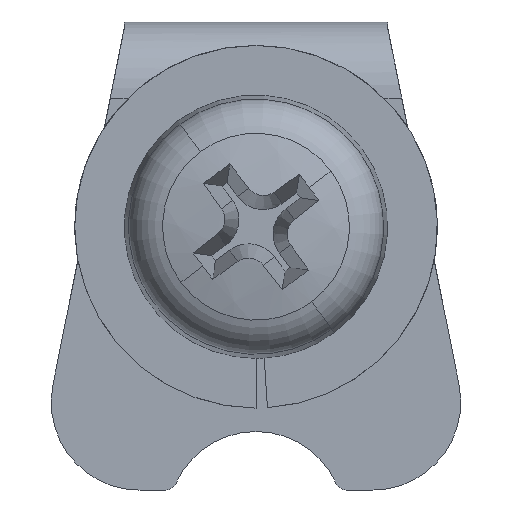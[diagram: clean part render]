
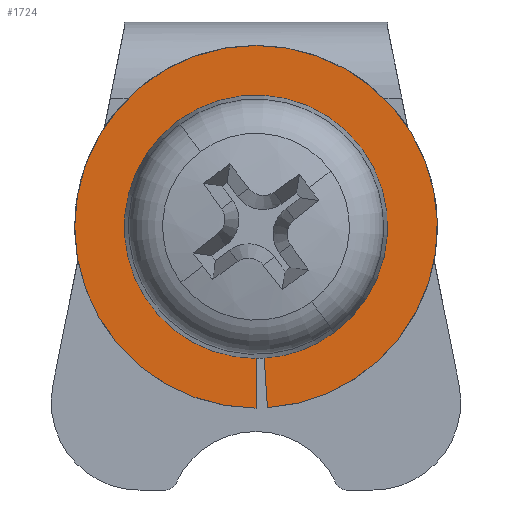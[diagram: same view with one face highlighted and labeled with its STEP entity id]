
A CAD part, front view. The second image highlights one B-rep face of the part: STEP entity #1724.
In plain terms, the highlighted planar face has unit normal (0, -1, 0).
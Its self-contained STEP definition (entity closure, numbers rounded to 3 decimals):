
#28 = DIRECTION ( 'NONE',  ( -0.595, 0., 0.804 ) ) ;
#43 = PLANE ( 'NONE',  #1763 ) ;
#52 = VERTEX_POINT ( 'NONE', #805 ) ;
#55 = AXIS2_PLACEMENT_3D ( 'NONE', #931, #313, #503 ) ;
#69 = ORIENTED_EDGE ( 'NONE', *, *, #846, .F. ) ;
#129 = LINE ( 'NONE', #1968, #1146 ) ;
#159 = ORIENTED_EDGE ( 'NONE', *, *, #1503, .F. ) ;
#190 = VERTEX_POINT ( 'NONE', #1944 ) ;
#235 = LINE ( 'NONE', #863, #1133 ) ;
#261 = EDGE_CURVE ( 'NONE', #1202, #1573, #235, .T. ) ;
#313 = DIRECTION ( 'NONE',  ( 0., 1., 0. ) ) ;
#334 = CARTESIAN_POINT ( 'NONE',  ( 1.339, -1.6, -1.808 ) ) ;
#358 = CARTESIAN_POINT ( 'NONE',  ( 0., -1.6, 0. ) ) ;
#382 = CIRCLE ( 'NONE', #531, 3.1 ) ;
#392 = DIRECTION ( 'NONE',  ( 0., 1., 0. ) ) ;
#408 = DIRECTION ( 'NONE',  ( 0.063, 0., -0.998 ) ) ;
#417 = CIRCLE ( 'NONE', #493, 2.25 ) ;
#450 = AXIS2_PLACEMENT_3D ( 'NONE', #494, #1003, #28 ) ;
#466 = CARTESIAN_POINT ( 'NONE',  ( 0., -1.6, 0. ) ) ;
#488 = DIRECTION ( 'NONE',  ( -0.595, 0., 0.804 ) ) ;
#493 = AXIS2_PLACEMENT_3D ( 'NONE', #466, #664, #488 ) ;
#494 = CARTESIAN_POINT ( 'NONE',  ( 0., -1.6, 0. ) ) ;
#503 = DIRECTION ( 'NONE',  ( 1., 0., 0. ) ) ;
#531 = AXIS2_PLACEMENT_3D ( 'NONE', #1163, #392, #1019 ) ;
#532 = FACE_OUTER_BOUND ( 'NONE', #1704, .T. ) ;
#664 = DIRECTION ( 'NONE',  ( 0., -1., 0. ) ) ;
#698 = CARTESIAN_POINT ( 'NONE',  ( -3.1, -1.6, 3.1 ) ) ;
#772 = EDGE_CURVE ( 'NONE', #52, #190, #382, .T. ) ;
#805 = CARTESIAN_POINT ( 'NONE',  ( 0., -1.6, -3.1 ) ) ;
#823 = DIRECTION ( 'NONE',  ( 1., 0., 0. ) ) ;
#825 = VERTEX_POINT ( 'NONE', #1271 ) ;
#829 = EDGE_CURVE ( 'NONE', #1542, #2021, #1109, .T. ) ;
#846 = EDGE_CURVE ( 'NONE', #2021, #825, #1476, .T. ) ;
#863 = CARTESIAN_POINT ( 'NONE',  ( -0.206, -1.6, 3.282 ) ) ;
#931 = CARTESIAN_POINT ( 'NONE',  ( 0., -1.6, 0. ) ) ;
#992 = ORIENTED_EDGE ( 'NONE', *, *, #261, .T. ) ;
#993 = DIRECTION ( 'NONE',  ( -0.595, 0., 0.804 ) ) ;
#1003 = DIRECTION ( 'NONE',  ( 0., -1., 0. ) ) ;
#1006 = EDGE_CURVE ( 'NONE', #52, #825, #129, .T. ) ;
#1017 = DIRECTION ( 'NONE',  ( 0., 1., 0. ) ) ;
#1019 = DIRECTION ( 'NONE',  ( 1., 0., 0. ) ) ;
#1036 = CIRCLE ( 'NONE', #55, 3.1 ) ;
#1057 = DIRECTION ( 'NONE',  ( 0., 0., 1. ) ) ;
#1107 = DIRECTION ( 'NONE',  ( 0., -1., 0. ) ) ;
#1109 = CIRCLE ( 'NONE', #2023, 2.25 ) ;
#1133 = VECTOR ( 'NONE', #408, 1000. ) ;
#1146 = VECTOR ( 'NONE', #1057, 1000. ) ;
#1163 = CARTESIAN_POINT ( 'NONE',  ( 0., -1.6, 0. ) ) ;
#1202 = VERTEX_POINT ( 'NONE', #1531 ) ;
#1203 = ORIENTED_EDGE ( 'NONE', *, *, #1006, .T. ) ;
#1235 = CARTESIAN_POINT ( 'NONE',  ( 0.195, -1.6, -3.094 ) ) ;
#1271 = CARTESIAN_POINT ( 'NONE',  ( 0., -1.6, -2.25 ) ) ;
#1476 = CIRCLE ( 'NONE', #450, 2.25 ) ;
#1503 = EDGE_CURVE ( 'NONE', #190, #1573, #1036, .T. ) ;
#1531 = CARTESIAN_POINT ( 'NONE',  ( 0.141, -1.6, -2.246 ) ) ;
#1542 = VERTEX_POINT ( 'NONE', #334 ) ;
#1573 = VERTEX_POINT ( 'NONE', #1235 ) ;
#1616 = EDGE_CURVE ( 'NONE', #1202, #1542, #417, .T. ) ;
#1704 = EDGE_LOOP ( 'NONE', ( #1203, #69, #1922, #1823, #992, #159, #1720 ) ) ;
#1720 = ORIENTED_EDGE ( 'NONE', *, *, #772, .F. ) ;
#1724 = ADVANCED_FACE ( 'NONE', ( #532 ), #43, .F. ) ;
#1763 = AXIS2_PLACEMENT_3D ( 'NONE', #698, #1017, #823 ) ;
#1823 = ORIENTED_EDGE ( 'NONE', *, *, #1616, .F. ) ;
#1897 = CARTESIAN_POINT ( 'NONE',  ( -1.339, -1.6, 1.808 ) ) ;
#1922 = ORIENTED_EDGE ( 'NONE', *, *, #829, .F. ) ;
#1944 = CARTESIAN_POINT ( 'NONE',  ( 0., -1.6, 3.1 ) ) ;
#1968 = CARTESIAN_POINT ( 'NONE',  ( 0., -1.6, 3.1 ) ) ;
#2021 = VERTEX_POINT ( 'NONE', #1897 ) ;
#2023 = AXIS2_PLACEMENT_3D ( 'NONE', #358, #1107, #993 ) ;
